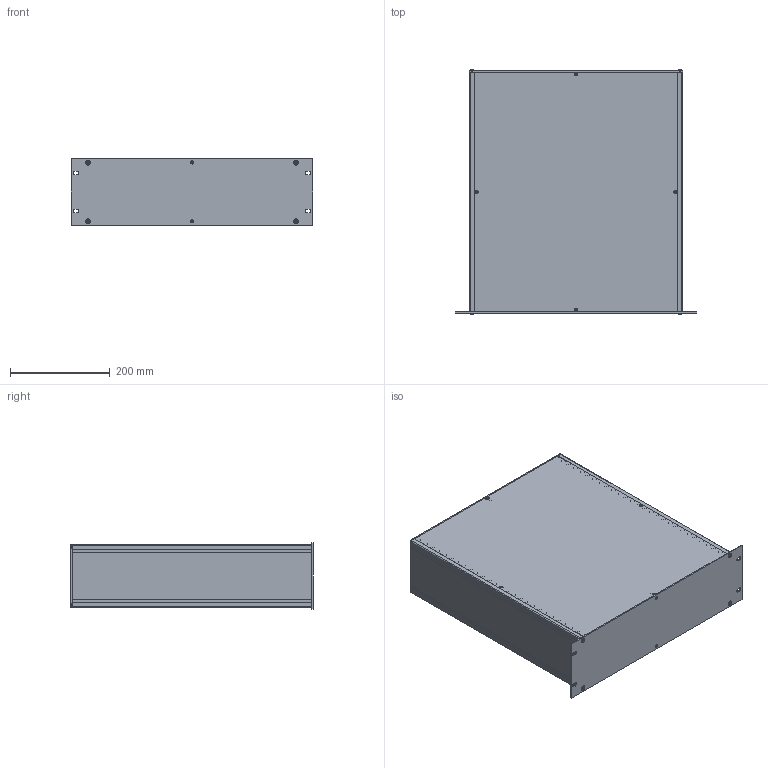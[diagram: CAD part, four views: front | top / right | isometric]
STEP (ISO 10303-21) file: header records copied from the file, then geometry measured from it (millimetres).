
FILE_DESCRIPTION(/* description */ (''),/* implementation_level */ '2;1');
FILE_NAME(/* name */ '//diskstation/Kunden/Gehäuse/Gehäuse/3HE/step/Zoll 3HE Rack Gehäuse Tiefe-480.step',/* time_stamp */ '2022-02-17T15:42:58+01:00',/* author */ (''),/* organization */ (''),/* preprocessor_version */ 'ST-DEVELOPER v18.1',/* originating_system */ 'Autodesk Translation Framework v10.10.0.1391',/* authorisation */ '');
FILE_SCHEMA (('AUTOMOTIVE_DESIGN { 1 0 10303 214 3 1 1 }'));
Length unit declared in the file: millimetre
Products named in the file (28): 3HE Gehäuse mit parametern; Gehäuse; Gehäuseprofil 1 unten links; Gehäuseprofil 2 oben rechts; Gehäuseprofil 1 unten rechts; Gehäuseprofil 2 oben links; Rückplatte; Deckel; Seitenteil links; Seitenteil rechts; Bodenplatte; Montageklotz Front/Deckel; Montageklotz Front/Boden; Montageklotz Rück/Deckel; Montageklotz Rück/Boden; Gewindestreifen; Frontplatte; Schrauben M5; Schraube Front; Schraube Front (1); Schraube Front (2); Schraube Front (3); Schraube Rück (1); Schraube Rück; Schraube Rück (2); Schraube Rück (3); Schrauben M3; HI_Senkschraube DIN 965 A v2 M3x5 24677.030.005(High)
Assembly tree (37 placements, depth 3):
  3HE Gehäuse mit parametern
    Gehäuse
      Gehäuseprofil 1 unten links
      Gehäuseprofil 2 oben rechts
      Gehäuseprofil 1 unten rechts
      Gehäuseprofil 2 oben links
      Rückplatte
      Deckel
      Seitenteil links
      Seitenteil rechts
      Bodenplatte
      Montageklotz Front/Deckel
      Montageklotz Front/Boden
      Montageklotz Rück/Deckel
      Montageklotz Rück/Boden
      Gewindestreifen  x2
    Frontplatte
    Schrauben M5
      Schraube Front
      Schraube Front (1)
      Schraube Front (2)
      Schraube Front (3)
      Schraube Rück (1)
      Schraube Rück
      Schraube Rück (2)
      Schraube Rück (3)
    Schrauben M3
      HI_Senkschraube DIN 965 A v2 M3x5 24677.030.005(High)  x10
Bounding box: 483 x 488.2 x 132.5 mm (x, y, z)
Volume: 1624085.6 mm3; surface area: 1438686 mm2
Topology: 34 solids, 34 shells, 944 faces, 2346 edges, 1470 vertices
Faces by surface type: cylinder 422, plane 342, cone 164, torus 8, bspline 8
Full cylindrical faces by diameter (mm): 2.529 x180, 3 x10, 3.2 x10, 4.234 x40, 5 x8, 5.2 x4, 5.3 x8, 5.6 x10, 9.5 x8
Entity records: 18600 total; most frequent: CARTESIAN_POINT 3348, DIRECTION 3135, ORIENTED_EDGE 2760, EDGE_CURVE 1380, AXIS2_PLACEMENT_3D 1195, VERTEX_POINT 868, EDGE_LOOP 866, LINE 745
